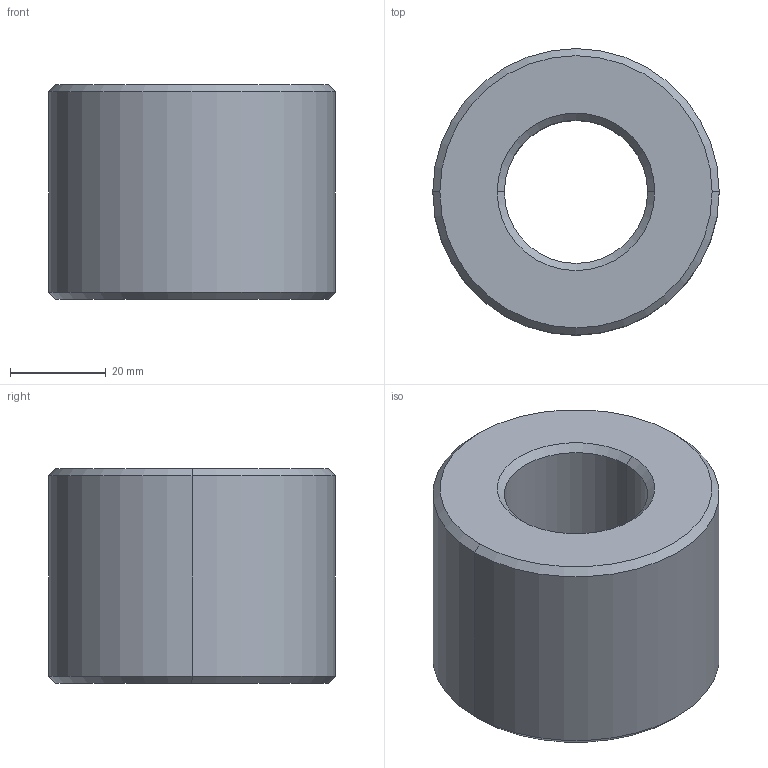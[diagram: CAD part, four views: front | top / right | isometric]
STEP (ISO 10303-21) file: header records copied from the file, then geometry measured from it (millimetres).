
FILE_DESCRIPTION (( 'STEP AP203' ), '1' );
FILE_NAME ('L1339.R30-06.step', '2024-10-24T14:11:13', ( '' ), ( '' ), 'SwSTEP 2.0', 'SolidWorks 2019', '' );
FILE_SCHEMA (( 'CONFIG_CONTROL_DESIGN' ));
Length unit declared in the file: millimetre
Products named in the file (1): L1339.R30-06
Bounding box: 60 x 60 x 45 mm (x, y, z)
Volume: 94789.7 mm3; surface area: 16467.7 mm2
Topology: 1 solids, 1 shells, 14 faces, 28 edges, 16 vertices
Faces by surface type: cone 8, cylinder 4, plane 2
Entity records: 445 total; most frequent: DIRECTION 74, CARTESIAN_POINT 59, ORIENTED_EDGE 56, AXIS2_PLACEMENT_3D 31, EDGE_CURVE 28, CIRCLE 16, EDGE_LOOP 16, VERTEX_POINT 16
